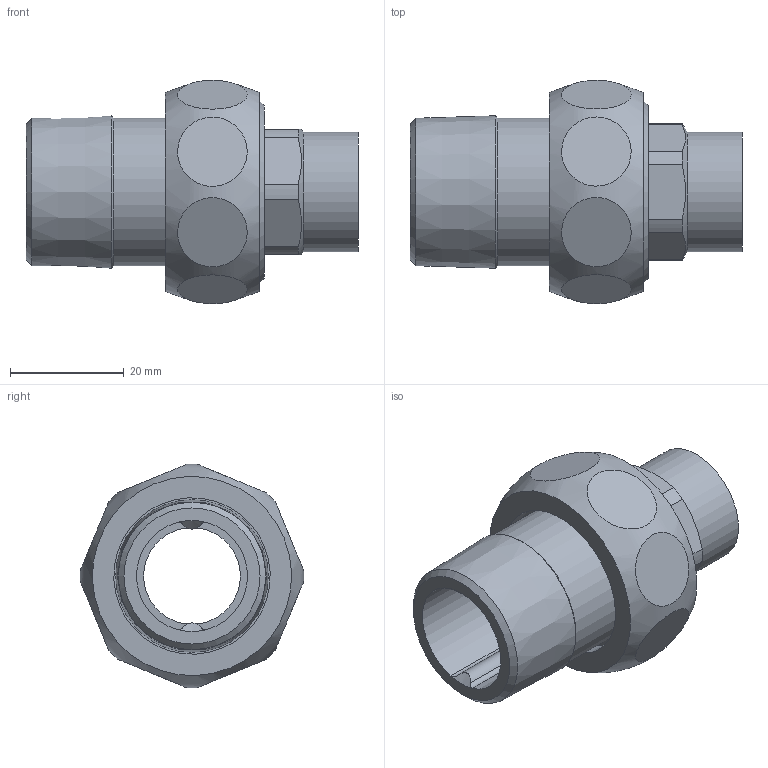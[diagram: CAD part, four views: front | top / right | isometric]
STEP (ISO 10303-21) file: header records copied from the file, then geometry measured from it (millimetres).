
FILE_DESCRIPTION((''),'2;1');
FILE_NAME('\\Lg50001\groups\SANHA Legnica\Engineering\Public\RYSUNKI\SANHA POLSKA\4341g\step\14341g_18-34(1).stp','2010-06-10T13:38:02',('pajchrowski'),(''),'Autodesk Inventor 2009','Autodesk Inventor 2009','');
FILE_SCHEMA(('AUTOMOTIVE_DESIGN { 1 0 10303 214 1 1 1 1 }'));
Length unit declared in the file: millimetre
Products named in the file (4): 14341g_18-34(1); 14382_34-1(2); 14374_1(1); 14380_18-1(2)
Assembly tree (3 placements, depth 2):
  14341g_18-34(1)
    14382_34-1(2)
    14374_1(1)
    14380_18-1(2)
Bounding box: 58.34 x 39.27 x 39.27 mm (x, y, z)
Volume: 21847.1 mm3; surface area: 14578.9 mm2
Topology: 3 solids, 3 shells, 62 faces, 131 edges, 87 vertices
Faces by surface type: plane 25, cylinder 23, cone 12, torus 1, bspline 1
Full cylindrical faces by diameter (mm): 17 x1, 18 x1, 21 x1, 26 x1, 27.5 x2, 29.5 x1, 30.291 x1, 33.249 x1
Entity records: 3063 total; most frequent: CARTESIAN_POINT 1723, DIRECTION 258, ORIENTED_EDGE 216, AXIS2_PLACEMENT_3D 116, EDGE_CURVE 108, EDGE_LOOP 100, VERTEX_POINT 84, FACE_OUTER_BOUND 62
